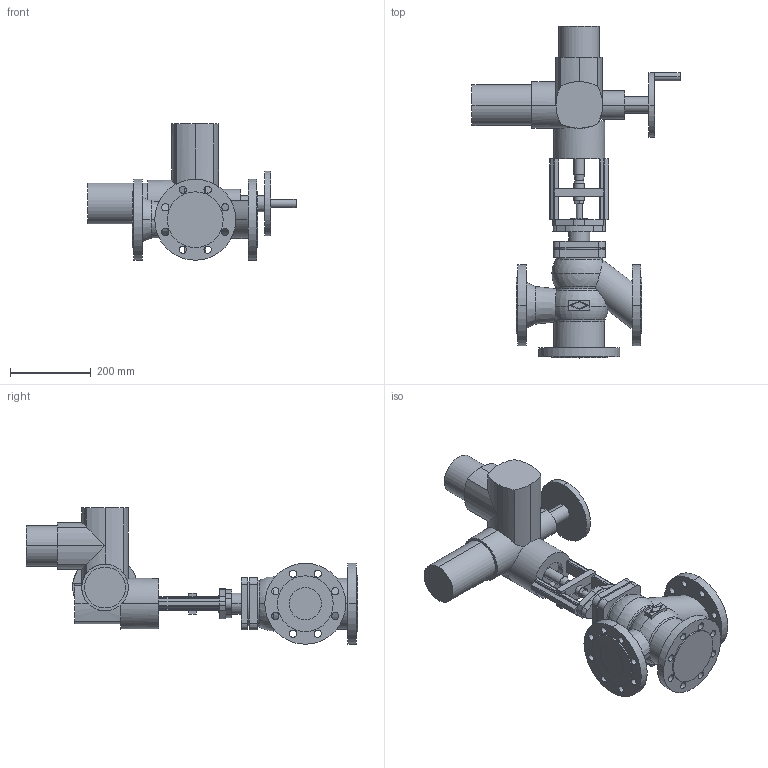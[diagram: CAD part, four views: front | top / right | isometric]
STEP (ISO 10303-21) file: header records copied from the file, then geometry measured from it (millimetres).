
FILE_DESCRIPTION(('OneSpaceDesigner STEP Export'),'2;1');
FILE_NAME('c000003172.stp','2007-01-24T10:45:06',(''),(''),'OneSpace Designer STEP processor for AP214 (Solid Model)','OneSpace Designer 14.00B 27-May-2006 (C) CoCreate Software GmbH','');
FILE_SCHEMA(('AUTOMOTIVE_DESIGN { 1 0 10303 214 1 1 1 1 }'));
Length unit declared in the file: millimetre
Products named in the file (2): 1; 2
Bounding box: 514 x 819.5 x 337 mm (x, y, z)
Volume: 15386046.2 mm3; surface area: 870444.2 mm2
Topology: 2 solids, 2 shells, 317 faces, 829 edges, 529 vertices
Faces by surface type: cylinder 164, plane 131, torus 10, cone 8, sphere 4
Entity records: 9322 total; most frequent: CARTESIAN_POINT 2068, ORIENTED_EDGE 1650, DIRECTION 1324, EDGE_CURVE 825, VERTEX_POINT 529, AXIS2_PLACEMENT_3D 454, VECTOR 416, LINE 416
